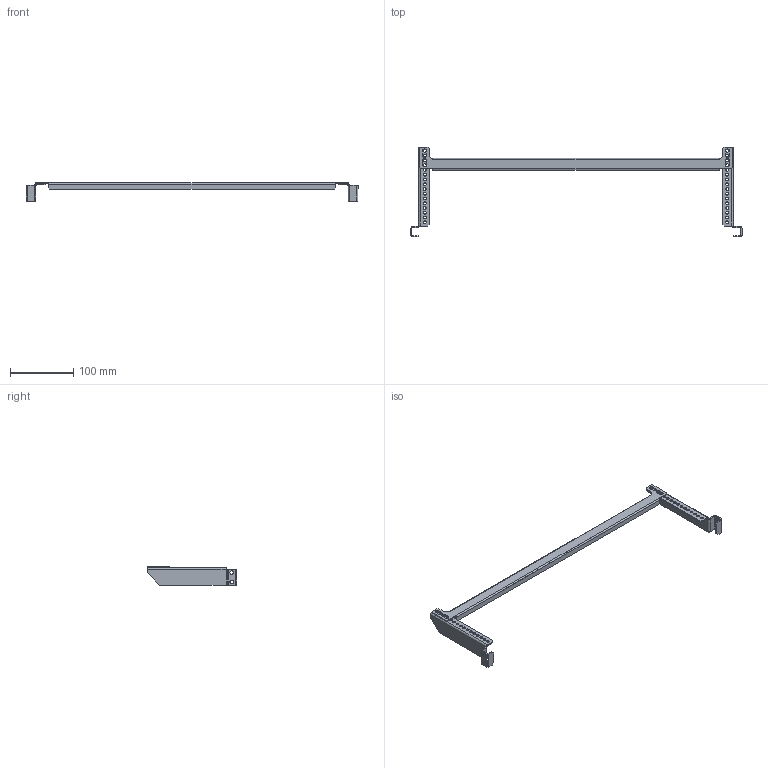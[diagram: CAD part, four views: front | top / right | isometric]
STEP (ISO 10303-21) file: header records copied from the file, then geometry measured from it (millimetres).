
FILE_DESCRIPTION(('CAx-IF Rec.Pracs.---Model Styling and Organization---1.2---2011-12-15','CAx-IF Rec.Pracs.---Geometric and Assembly Validation Properties---4.1---2014-06-16','CAx-IF Rec.Pracs.---PMI Polyline Presentation---2.0---2013-05-24'),'2;1');
FILE_NAME('R5SR60L.stp','2021-05-05T13:17:35+03:00',(''),(''),'STEP Interface 4.4 by CT CoreTechnologie','3D_Evolution4.4 by CT CoreTechnologie','');
FILE_SCHEMA(('AUTOMOTIVE_DESIGN { 1 0 10303 214 1 1 1 1 }'));
Length unit declared in the file: millimetre
Products named in the file (4): R5SR60L; RB.0568.00.00.0_-00; RB.0568.00.00.0_-01; RB.0569.00.00.0_-00
Assembly tree (3 placements, depth 2):
  R5SR60L
    RB.0568.00.00.0_-00
    RB.0568.00.00.0_-01
    RB.0569.00.00.0_-00
Bounding box: 523 x 141.5 x 29.1 mm (x, y, z)
Surface area: 60575.5 mm2 (no closed solid volume)
Topology: 0 solids, 7 shells, 200 faces, 534 edges, 348 vertices
Faces by surface type: plane 102, cylinder 98
Entity records: 6577 total; most frequent: DIRECTION 1138, CARTESIAN_POINT 1086, ORIENTED_EDGE 1068, EDGE_CURVE 534, AXIS2_PLACEMENT_3D 400, VERTEX_POINT 348, VECTOR 338, LINE 338
